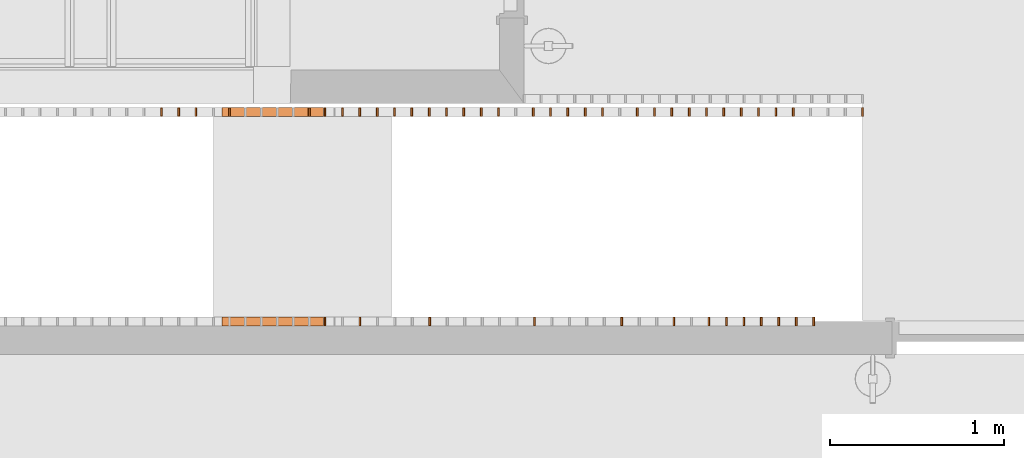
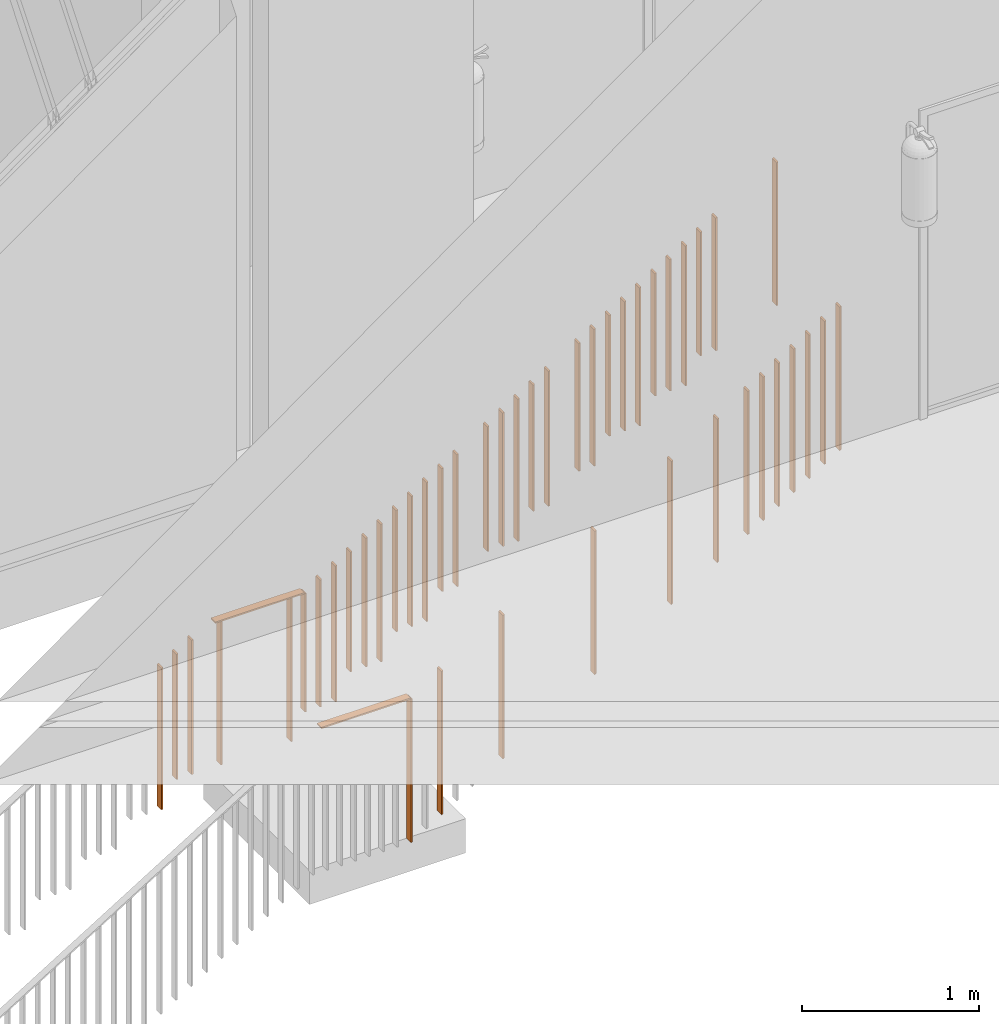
# One storey, part 96 of 100: 47 proxies, 2 elements without a shape of their own.
"""IFC2X3 building model written with IfcOpenShell, lengths in millimetres."""

from ifc_helpers import new_model, entity, si_unit, converted_unit, derived_unit, money_unit, direction, frame, origin_with_axes, place, context, subcontext, project, spatial, faceted_brep, material, type_object, element, aggregate, save


model = new_model("IFC2X3")

# Units and contexts
model_context = context("Model", 3, precision=0.01, world=origin_with_axes(), true_north=direction((0.0, 1.0)))
body_context = subcontext(model_context, "Body", "Model", "MODEL_VIEW")
ifc_project = project(units=[si_unit("LENGTHUNIT", "METRE", prefix="MILLI"), si_unit("AREAUNIT", "SQUARE_METRE"), si_unit("VOLUMEUNIT", "CUBIC_METRE"), converted_unit("PLANEANGLEUNIT", "DEGREE", entity("IfcPlaneAngleMeasure", 0.0174532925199), si_unit("PLANEANGLEUNIT", "RADIAN"), dimensions=[0, 0, 0, 0, 0, 0, 0]), si_unit("SOLIDANGLEUNIT", "STERADIAN"), money_unit("EUR"), converted_unit("TIMEUNIT", "Year", entity("IfcTimeMeasure", 31556926.0), si_unit("TIMEUNIT", "SECOND"), dimensions=[0, 0, 1, 0, 0, 0, 0]), si_unit("MASSUNIT", "GRAM", prefix="KILO"), si_unit("THERMODYNAMICTEMPERATUREUNIT", "DEGREE_CELSIUS"), si_unit("LUMINOUSINTENSITYUNIT", "LUMEN"), si_unit("ENERGYUNIT", "JOULE", prefix="MEGA"), derived_unit("THERMALCONDUCTANCEUNIT", [(si_unit("POWERUNIT", "WATT"), 1), (si_unit("LENGTHUNIT", "METRE"), -1), (si_unit("THERMODYNAMICTEMPERATUREUNIT", "KELVIN"), -1)]), derived_unit("SPECIFICHEATCAPACITYUNIT", [(si_unit("ENERGYUNIT", "JOULE"), 1), (si_unit("MASSUNIT", "GRAM", prefix="KILO"), -1), (si_unit("THERMODYNAMICTEMPERATUREUNIT", "KELVIN"), -1)]), derived_unit("MASSDENSITYUNIT", [(si_unit("MASSUNIT", "GRAM", prefix="KILO"), 1), (si_unit("VOLUMEUNIT", "CUBIC_METRE"), -1)])], contexts=[model_context])

# Site, building, storey
site_placement = place(None, origin_with_axes())
site = spatial("IfcSite", under=ifc_project, at=site_placement, Name="Politse- ja Piirivalveameti ning Päästeameti ühishoone", CompositionType="ELEMENT")
building_placement = place(site_placement, origin_with_axes())
building = spatial("IfcBuilding", under=site, at=building_placement, Name="Politse- ja Piirivalveameti ning Päästeameti ühishoone", CompositionType="ELEMENT")
storey_placement = place(building_placement, frame((0.0, 0.0, 3800.0), z_axis=(0.0, 0.0, 1.0), x_axis=(1.0, 0.0, 0.0)))
storey = spatial("IfcBuildingStorey", under=building, at=storey_placement, Name="Teine korrus", CompositionType="ELEMENT", Elevation=3800.0)

# Railing, proxies
railing_type = type_object("IfcRailingType", Name="Railing Type", PredefinedType="NOTDEFINED")
railing_1_placement = place(storey_placement, frame((18400.0260184, 11585.0198611, -3800.0), z_axis=(0.0, 0.0, 1.0), x_axis=(1.0, 0.0, 0.0)))
railing_1 = element("IfcRailing", 1, at=railing_1_placement, inside=storey, type_object=railing_type, Name="TREPIPIIRE 6", PredefinedType="NOTDEFINED")
ifc_material = material(Name="Teras - Konstruktsioon")
building_element_proxy_type = type_object("IfcBuildingElementProxyType", Name="IfcBuildingElementProxy", PredefinedType="NOTDEFINED")
proxy_1_placement = place(railing_1_placement, frame((3720.0, -25.0, 1900.0), z_axis=(0.0, 0.0, 1.0), x_axis=(1.0, 0.0, 0.0)))
proxy_1 = element("IfcBuildingElementProxy", 2, at=proxy_1_placement, type_object=building_element_proxy_type, material=ifc_material, Name="PIIRDE POST - 001", context=body_context, shape_type="Brep", body=[
    faceted_brep([(5.0, -25.0, 1.41814436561), (5.0, 25.0, 1.41814436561), (5.0, 25.0, 990.463297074), (5.0, -25.0, 990.463297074), (-5.0, -25.0, -1.41814436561), (-5.0, 25.0, -1.41814436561), (-5.0, 25.0, 990.463297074), (-5.0, -25.0, 990.463297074)], [[[0, 1, 2, 3]], [[0, 4, 5, 1]], [[1, 5, 6, 2]], [[3, 2, 6, 7]], [[4, 0, 3, 7]], [[5, 4, 7, 6]]]),
])
proxy_2_placement = place(railing_1_placement, frame((6520.0, -25.0, 3627.27272727), z_axis=(0.0, 0.0, 1.0), x_axis=(1.0, 0.0, 0.0)))
proxy_2 = element("IfcBuildingElementProxy", 3, at=proxy_2_placement, type_object=building_element_proxy_type, material=ifc_material, Name="PIIRDE POST - 001", context=body_context, shape_type="Brep", body=[
    faceted_brep([(5.0, -25.0, 3.08441558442), (5.0, 25.0, 3.08441558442), (5.0, 25.0, 993.084415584), (5.0, -25.0, 993.084415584), (-5.0, -25.0, -3.08441558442), (-5.0, 25.0, -3.08441558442), (-5.0, 25.0, 986.915584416), (-5.0, -25.0, 986.915584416)], [[[0, 1, 2, 3]], [[0, 4, 5, 1]], [[1, 5, 6, 2]], [[3, 2, 6, 7]], [[4, 0, 3, 7]], [[5, 4, 7, 6]]]),
])
proxy_3_placement = place(railing_1_placement, frame((3420.83432195, -25.0, 2873.07417596), z_axis=(0.0, 0.0, 1.0), x_axis=(1.0, 0.0, 0.0)))
proxy_3 = element("IfcBuildingElementProxy", 4, at=proxy_3_placement, type_object=building_element_proxy_type, material=ifc_material, Name="Piirde Ülaosa - 001", context=body_context, shape_type="Brep", body=[
    faceted_brep([(-290.834321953, 25.0, 16.9258240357), (-290.834321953, 25.0, 26.9258240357), (290.834321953, 25.0, 26.9258240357), (291.526349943, 25.0, 16.9258240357), (-290.834321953, -25.0, 26.9258240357), (-290.834321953, -25.0, 16.9258240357), (290.834321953, -25.0, 26.9258240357), (291.526349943, -25.0, 16.9258240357)], [[[0, 1, 2, 3]], [[4, 1, 0, 5]], [[1, 4, 6, 2]], [[7, 3, 2, 6]], [[5, 0, 3, 7]], [[4, 5, 7, 6]]]),
])
proxy_4_placement = place(railing_1_placement, frame((3920.0, -25.0, 2023.37661082), z_axis=(0.0, 0.0, 1.0), x_axis=(1.0, 0.0, 0.0)))
proxy_4 = element("IfcBuildingElementProxy", 5, at=proxy_4_placement, type_object=building_element_proxy_type, material=ifc_material, Name="BALUSTER - 001", context=body_context, shape_type="Brep", body=[
    faceted_brep([(5.0, -25.0, 3.08441558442), (5.0, 25.0, 3.08441558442), (5.0, 25.0, 993.084428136), (5.0, -25.0, 993.084428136), (-5.0, -25.0, -3.08441558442), (-5.0, 25.0, -3.08441558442), (-5.0, 25.0, 986.915596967), (-5.0, -25.0, 986.915596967)], [[[0, 1, 2, 3]], [[0, 4, 5, 1]], [[1, 5, 6, 2]], [[3, 2, 6, 7]], [[4, 0, 3, 7]], [[5, 4, 7, 6]]]),
])
proxy_5_placement = place(railing_1_placement, frame((4320.0, -25.0, 2270.12985758), z_axis=(0.0, 0.0, 1.0), x_axis=(1.0, 0.0, 0.0)))
proxy_5 = element("IfcBuildingElementProxy", 6, at=proxy_5_placement, type_object=building_element_proxy_type, material=ifc_material, Name="BALUSTER - 001", context=body_context, shape_type="Brep", body=[
    faceted_brep([(5.0, -25.0, 3.08441558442), (5.0, 25.0, 3.08441558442), (5.0, 25.0, 993.084428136), (5.0, -25.0, 993.084428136), (-5.0, -25.0, -3.08441558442), (-5.0, 25.0, -3.08441558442), (-5.0, 25.0, 986.915596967), (-5.0, -25.0, 986.915596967)], [[[0, 1, 2, 3]], [[0, 4, 5, 1]], [[1, 5, 6, 2]], [[3, 2, 6, 7]], [[4, 0, 3, 7]], [[5, 4, 7, 6]]]),
])
proxy_6_placement = place(railing_1_placement, frame((4920.0, -25.0, 2640.25972771), z_axis=(0.0, 0.0, 1.0), x_axis=(1.0, 0.0, 0.0)))
proxy_6 = element("IfcBuildingElementProxy", 7, at=proxy_6_placement, type_object=building_element_proxy_type, material=ifc_material, Name="BALUSTER - 001", context=body_context, shape_type="Brep", body=[
    faceted_brep([(5.0, -25.0, 3.08441558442), (5.0, 25.0, 3.08441558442), (5.0, 25.0, 993.084428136), (5.0, -25.0, 993.084428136), (-5.0, -25.0, -3.08441558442), (-5.0, 25.0, -3.08441558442), (-5.0, 25.0, 986.915596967), (-5.0, -25.0, 986.915596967)], [[[0, 1, 2, 3]], [[0, 4, 5, 1]], [[1, 5, 6, 2]], [[3, 2, 6, 7]], [[4, 0, 3, 7]], [[5, 4, 7, 6]]]),
])
proxy_7_placement = place(railing_1_placement, frame((5420.0, -25.0, 2948.70128615), z_axis=(0.0, 0.0, 1.0), x_axis=(1.0, 0.0, 0.0)))
proxy_7 = element("IfcBuildingElementProxy", 8, at=proxy_7_placement, type_object=building_element_proxy_type, material=ifc_material, Name="BALUSTER - 001", context=body_context, shape_type="Brep", body=[
    faceted_brep([(5.0, -25.0, 3.08441558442), (5.0, 25.0, 3.08441558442), (5.0, 25.0, 993.084428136), (5.0, -25.0, 993.084428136), (-5.0, -25.0, -3.08441558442), (-5.0, 25.0, -3.08441558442), (-5.0, 25.0, 986.915596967), (-5.0, -25.0, 986.915596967)], [[[0, 1, 2, 3]], [[0, 4, 5, 1]], [[1, 5, 6, 2]], [[3, 2, 6, 7]], [[4, 0, 3, 7]], [[5, 4, 7, 6]]]),
])
proxy_8_placement = place(railing_1_placement, frame((5720.0, -25.0, 3133.76622121), z_axis=(0.0, 0.0, 1.0), x_axis=(1.0, 0.0, 0.0)))
proxy_8 = element("IfcBuildingElementProxy", 9, at=proxy_8_placement, type_object=building_element_proxy_type, material=ifc_material, Name="BALUSTER - 001", context=body_context, shape_type="Brep", body=[
    faceted_brep([(5.0, -25.0, 3.08441558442), (5.0, 25.0, 3.08441558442), (5.0, 25.0, 993.084428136), (5.0, -25.0, 993.084428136), (-5.0, -25.0, -3.08441558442), (-5.0, 25.0, -3.08441558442), (-5.0, 25.0, 986.915596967), (-5.0, -25.0, 986.915596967)], [[[0, 1, 2, 3]], [[0, 4, 5, 1]], [[1, 5, 6, 2]], [[3, 2, 6, 7]], [[4, 0, 3, 7]], [[5, 4, 7, 6]]]),
])
proxy_9_placement = place(railing_1_placement, frame((5920.0, -25.0, 3257.14284459), z_axis=(0.0, 0.0, 1.0), x_axis=(1.0, 0.0, 0.0)))
proxy_9 = element("IfcBuildingElementProxy", 10, at=proxy_9_placement, type_object=building_element_proxy_type, material=ifc_material, Name="BALUSTER - 001", context=body_context, shape_type="Brep", body=[
    faceted_brep([(5.0, -25.0, 3.08441558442), (5.0, 25.0, 3.08441558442), (5.0, 25.0, 993.084428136), (5.0, -25.0, 993.084428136), (-5.0, -25.0, -3.08441558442), (-5.0, 25.0, -3.08441558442), (-5.0, 25.0, 986.915596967), (-5.0, -25.0, 986.915596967)], [[[0, 1, 2, 3]], [[0, 4, 5, 1]], [[1, 5, 6, 2]], [[3, 2, 6, 7]], [[4, 0, 3, 7]], [[5, 4, 7, 6]]]),
])
proxy_10_placement = place(railing_1_placement, frame((6020.0, -25.0, 3318.83115628), z_axis=(0.0, 0.0, 1.0), x_axis=(1.0, 0.0, 0.0)))
proxy_10 = element("IfcBuildingElementProxy", 11, at=proxy_10_placement, type_object=building_element_proxy_type, material=ifc_material, Name="BALUSTER - 001", context=body_context, shape_type="Brep", body=[
    faceted_brep([(5.0, -25.0, 3.08441558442), (5.0, 25.0, 3.08441558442), (5.0, 25.0, 993.084428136), (5.0, -25.0, 993.084428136), (-5.0, -25.0, -3.08441558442), (-5.0, 25.0, -3.08441558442), (-5.0, 25.0, 986.915596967), (-5.0, -25.0, 986.915596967)], [[[0, 1, 2, 3]], [[0, 4, 5, 1]], [[1, 5, 6, 2]], [[3, 2, 6, 7]], [[4, 0, 3, 7]], [[5, 4, 7, 6]]]),
])
proxy_11_placement = place(railing_1_placement, frame((6120.0, -25.0, 3380.51946797), z_axis=(0.0, 0.0, 1.0), x_axis=(1.0, 0.0, 0.0)))
proxy_11 = element("IfcBuildingElementProxy", 12, at=proxy_11_placement, type_object=building_element_proxy_type, material=ifc_material, Name="BALUSTER - 001", context=body_context, shape_type="Brep", body=[
    faceted_brep([(5.0, -25.0, 3.08441558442), (5.0, 25.0, 3.08441558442), (5.0, 25.0, 993.084428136), (5.0, -25.0, 993.084428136), (-5.0, -25.0, -3.08441558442), (-5.0, 25.0, -3.08441558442), (-5.0, 25.0, 986.915596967), (-5.0, -25.0, 986.915596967)], [[[0, 1, 2, 3]], [[0, 4, 5, 1]], [[1, 5, 6, 2]], [[3, 2, 6, 7]], [[4, 0, 3, 7]], [[5, 4, 7, 6]]]),
])
proxy_12_placement = place(railing_1_placement, frame((6220.0, -25.0, 3442.20777966), z_axis=(0.0, 0.0, 1.0), x_axis=(1.0, 0.0, 0.0)))
proxy_12 = element("IfcBuildingElementProxy", 13, at=proxy_12_placement, type_object=building_element_proxy_type, material=ifc_material, Name="BALUSTER - 001", context=body_context, shape_type="Brep", body=[
    faceted_brep([(5.0, -25.0, 3.08441558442), (5.0, 25.0, 3.08441558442), (5.0, 25.0, 993.084428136), (5.0, -25.0, 993.084428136), (-5.0, -25.0, -3.08441558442), (-5.0, 25.0, -3.08441558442), (-5.0, 25.0, 986.915596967), (-5.0, -25.0, 986.915596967)], [[[0, 1, 2, 3]], [[0, 4, 5, 1]], [[1, 5, 6, 2]], [[3, 2, 6, 7]], [[4, 0, 3, 7]], [[5, 4, 7, 6]]]),
])
proxy_13_placement = place(railing_1_placement, frame((6320.0, -25.0, 3503.89609134), z_axis=(0.0, 0.0, 1.0), x_axis=(1.0, 0.0, 0.0)))
proxy_13 = element("IfcBuildingElementProxy", 14, at=proxy_13_placement, type_object=building_element_proxy_type, material=ifc_material, Name="BALUSTER - 001", context=body_context, shape_type="Brep", body=[
    faceted_brep([(5.0, -25.0, 3.08441558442), (5.0, 25.0, 3.08441558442), (5.0, 25.0, 993.084428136), (5.0, -25.0, 993.084428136), (-5.0, -25.0, -3.08441558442), (-5.0, 25.0, -3.08441558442), (-5.0, 25.0, 986.915596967), (-5.0, -25.0, 986.915596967)], [[[0, 1, 2, 3]], [[0, 4, 5, 1]], [[1, 5, 6, 2]], [[3, 2, 6, 7]], [[4, 0, 3, 7]], [[5, 4, 7, 6]]]),
])
proxy_14_placement = place(railing_1_placement, frame((6420.0, -25.0, 3565.58440303), z_axis=(0.0, 0.0, 1.0), x_axis=(1.0, 0.0, 0.0)))
proxy_14 = element("IfcBuildingElementProxy", 15, at=proxy_14_placement, type_object=building_element_proxy_type, material=ifc_material, Name="BALUSTER - 001", context=body_context, shape_type="Brep", body=[
    faceted_brep([(5.0, -25.0, 3.08441558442), (5.0, 25.0, 3.08441558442), (5.0, 25.0, 993.084428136), (5.0, -25.0, 993.084428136), (-5.0, -25.0, -3.08441558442), (-5.0, 25.0, -3.08441558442), (-5.0, 25.0, 986.915596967), (-5.0, -25.0, 986.915596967)], [[[0, 1, 2, 3]], [[0, 4, 5, 1]], [[1, 5, 6, 2]], [[3, 2, 6, 7]], [[4, 0, 3, 7]], [[5, 4, 7, 6]]]),
])
aggregate(railing_1, [proxy_1, proxy_2, proxy_3, proxy_4, proxy_5, proxy_6, proxy_7, proxy_8, proxy_9, proxy_10, proxy_11, proxy_12, proxy_13, proxy_14])

railing_2_placement = place(storey_placement, frame((18400.0260184, 12785.0198611, -3800.0), z_axis=(0.0, 0.0, 1.0), x_axis=(1.0, 0.0, 0.0)))
railing_2 = element("IfcRailing", 16, at=railing_2_placement, inside=storey, type_object=railing_type, Name="TREPIPIIRE 7", PredefinedType="NOTDEFINED")
proxy_15_placement = place(railing_2_placement, frame((3720.0, -25.0, 2072.72727273), z_axis=(0.0, 0.0, 1.0), x_axis=(1.0, 0.0, 0.0)))
proxy_15 = element("IfcBuildingElementProxy", 17, at=proxy_15_placement, type_object=building_element_proxy_type, material=ifc_material, Name="PIIRDE POST - 001", context=body_context, shape_type="Brep", body=[
    faceted_brep([(5.0, -25.0, 0.0), (5.0, 25.0, 0.0), (5.0, 25.0, 817.736024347), (5.0, -25.0, 817.736024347), (-5.0, -25.0, 0.0), (-5.0, 25.0, 0.0), (-5.0, 25.0, 817.736024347), (-5.0, -25.0, 817.736024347)], [[[0, 1, 2, 3]], [[0, 4, 5, 1]], [[1, 5, 6, 2]], [[3, 2, 6, 7]], [[4, 0, 3, 7]], [[5, 4, 7, 6]]]),
])
proxy_16_placement = place(railing_2_placement, frame((6800.0, -25.0, 3800.0), z_axis=(0.0, 0.0, 1.0), x_axis=(1.0, 0.0, 0.0)))
proxy_16 = element("IfcBuildingElementProxy", 18, at=proxy_16_placement, type_object=building_element_proxy_type, material=ifc_material, Name="PIIRDE POST - 001", context=body_context, shape_type="Brep", body=[
    faceted_brep([(5.0, -25.0, 0.0), (5.0, 25.0, 0.0), (5.0, 25.0, 993.084415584), (5.0, -25.0, 993.084415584), (-5.0, -25.0, 0.0), (-5.0, 25.0, 0.0), (-5.0, 25.0, 986.915584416), (-5.0, -25.0, 986.915584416)], [[[0, 1, 2, 3]], [[0, 4, 5, 1]], [[1, 5, 6, 2]], [[3, 2, 6, 7]], [[4, 0, 3, 7]], [[5, 4, 7, 6]]]),
])
proxy_17_placement = place(railing_2_placement, frame((2781.93548387, -25.0, 1727.27271472), z_axis=(0.0, 0.0, 1.0), x_axis=(1.0, 0.0, 0.0)))
proxy_17 = element("IfcBuildingElementProxy", 19, at=proxy_17_placement, type_object=building_element_proxy_type, material=ifc_material, Name="BALUSTER - 001", context=body_context, shape_type="Brep", body=[
    faceted_brep([(5.0, -25.0, 0.0), (5.0, 25.0, 0.0), (5.0, 25.0, 981.940733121), (5.0, -25.0, 981.940733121), (-5.0, -25.0, 0.0), (-5.0, 25.0, 0.0), (-5.0, 25.0, 975.771901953), (-5.0, -25.0, 975.771901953)], [[[0, 1, 2, 3]], [[0, 4, 5, 1]], [[1, 5, 6, 2]], [[3, 2, 6, 7]], [[4, 0, 3, 7]], [[5, 4, 7, 6]]]),
])
proxy_18_placement = place(railing_2_placement, frame((2881.29032258, -25.0, 1899.99998745), z_axis=(0.0, 0.0, 1.0), x_axis=(1.0, 0.0, 0.0)))
proxy_18 = element("IfcBuildingElementProxy", 20, at=proxy_18_placement, type_object=building_element_proxy_type, material=ifc_material, Name="BALUSTER - 001", context=body_context, shape_type="Brep", body=[
    faceted_brep([(5.0, -25.0, 0.0), (5.0, 25.0, 0.0), (5.0, 25.0, 870.503782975), (5.0, -25.0, 870.503782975), (-5.0, -25.0, 0.0), (-5.0, 25.0, 0.0), (-5.0, 25.0, 864.334951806), (-5.0, -25.0, 864.334951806)], [[[0, 1, 2, 3]], [[0, 4, 5, 1]], [[1, 5, 6, 2]], [[3, 2, 6, 7]], [[4, 0, 3, 7]], [[5, 4, 7, 6]]]),
])
proxy_19_placement = place(railing_2_placement, frame((2980.64516129, -25.0, 1899.99998745), z_axis=(0.0, 0.0, 1.0), x_axis=(1.0, 0.0, 0.0)))
proxy_19 = element("IfcBuildingElementProxy", 21, at=proxy_19_placement, type_object=building_element_proxy_type, material=ifc_material, Name="BALUSTER - 001", context=body_context, shape_type="Brep", body=[
    faceted_brep([(5.0, -25.0, 0.0), (5.0, 25.0, 0.0), (5.0, 25.0, 931.794105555), (5.0, -25.0, 931.794105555), (-5.0, -25.0, 0.0), (-5.0, 25.0, 0.0), (-5.0, 25.0, 925.625274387), (-5.0, -25.0, 925.625274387)], [[[0, 1, 2, 3]], [[0, 4, 5, 1]], [[1, 5, 6, 2]], [[3, 2, 6, 7]], [[4, 0, 3, 7]], [[5, 4, 7, 6]]]),
])
proxy_20_placement = place(railing_2_placement, frame((3420.83432195, -25.0, 2873.07417596), z_axis=(0.0, 0.0, 1.0), x_axis=(1.0, 0.0, 0.0)))
proxy_20 = element("IfcBuildingElementProxy", 22, at=proxy_20_placement, type_object=building_element_proxy_type, material=ifc_material, Name="Piirde Ülaosa - 001", context=body_context, shape_type="Brep", body=[
    faceted_brep([(-290.834321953, 25.0, 16.9258240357), (-290.834321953, 25.0, 26.9258240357), (290.834321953, 25.0, 26.9258240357), (291.526349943, 25.0, 16.9258240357), (-290.834321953, -25.0, 26.9258240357), (-290.834321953, -25.0, 16.9258240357), (290.834321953, -25.0, 26.9258240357), (291.526349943, -25.0, 16.9258240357)], [[[0, 1, 2, 3]], [[4, 1, 0, 5]], [[1, 4, 6, 2]], [[7, 3, 2, 6]], [[5, 0, 3, 7]], [[4, 5, 7, 6]]]),
])
proxy_21_placement = place(railing_2_placement, frame((3171.42857143, -25.0, 1899.99998745), z_axis=(0.0, 0.0, 1.0), x_axis=(1.0, 0.0, 0.0)))
proxy_21 = element("IfcBuildingElementProxy", 23, at=proxy_21_placement, type_object=building_element_proxy_type, material=ifc_material, Name="BALUSTER - 001", context=body_context, shape_type="Brep", body=[
    faceted_brep([(5.0, -25.0, 0.0), (5.0, 25.0, 0.0), (5.0, 25.0, 990.000012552), (5.0, -25.0, 990.000012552), (-5.0, -25.0, 0.0), (-5.0, 25.0, 0.0), (-5.0, 25.0, 990.000012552), (-5.0, -25.0, 990.000012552)], [[[0, 1, 2, 3]], [[0, 4, 5, 1]], [[1, 5, 6, 2]], [[3, 2, 6, 7]], [[4, 0, 3, 7]], [[5, 4, 7, 6]]]),
])
proxy_22_placement = place(railing_2_placement, frame((3628.57142857, -25.0, 1899.99998745), z_axis=(0.0, 0.0, 1.0), x_axis=(1.0, 0.0, 0.0)))
proxy_22 = element("IfcBuildingElementProxy", 24, at=proxy_22_placement, type_object=building_element_proxy_type, material=ifc_material, Name="BALUSTER - 001", context=body_context, shape_type="Brep", body=[
    faceted_brep([(5.0, -25.0, 0.0), (5.0, 25.0, 0.0), (5.0, 25.0, 990.000012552), (5.0, -25.0, 990.000012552), (-5.0, -25.0, 0.0), (-5.0, 25.0, 0.0), (-5.0, 25.0, 990.000012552), (-5.0, -25.0, 990.000012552)], [[[0, 1, 2, 3]], [[0, 4, 5, 1]], [[1, 5, 6, 2]], [[3, 2, 6, 7]], [[4, 0, 3, 7]], [[5, 4, 7, 6]]]),
])
proxy_23_placement = place(railing_2_placement, frame((3819.35483871, -25.0, 2072.72726018), z_axis=(0.0, 0.0, 1.0), x_axis=(1.0, 0.0, 0.0)))
proxy_23 = element("IfcBuildingElementProxy", 25, at=proxy_23_placement, type_object=building_element_proxy_type, material=ifc_material, Name="BALUSTER - 001", context=body_context, shape_type="Brep", body=[
    faceted_brep([(5.0, -25.0, 0.0), (5.0, 25.0, 0.0), (5.0, 25.0, 881.647477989), (5.0, -25.0, 881.647477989), (-5.0, -25.0, 0.0), (-5.0, 25.0, 0.0), (-5.0, 25.0, 875.478646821), (-5.0, -25.0, 875.478646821)], [[[0, 1, 2, 3]], [[0, 4, 5, 1]], [[1, 5, 6, 2]], [[3, 2, 6, 7]], [[4, 0, 3, 7]], [[5, 4, 7, 6]]]),
])
proxy_24_placement = place(railing_2_placement, frame((3918.70967742, -25.0, 2072.72726018), z_axis=(0.0, 0.0, 1.0), x_axis=(1.0, 0.0, 0.0)))
proxy_24 = element("IfcBuildingElementProxy", 26, at=proxy_24_placement, type_object=building_element_proxy_type, material=ifc_material, Name="BALUSTER - 001", context=body_context, shape_type="Brep", body=[
    faceted_brep([(5.0, -25.0, 0.0), (5.0, 25.0, 0.0), (5.0, 25.0, 942.93780057), (5.0, -25.0, 942.93780057), (-5.0, -25.0, 0.0), (-5.0, 25.0, 0.0), (-5.0, 25.0, 936.768969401), (-5.0, -25.0, 936.768969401)], [[[0, 1, 2, 3]], [[0, 4, 5, 1]], [[1, 5, 6, 2]], [[3, 2, 6, 7]], [[4, 0, 3, 7]], [[5, 4, 7, 6]]]),
])
proxy_25_placement = place(railing_2_placement, frame((4018.06451613, -25.0, 2245.4545329), z_axis=(0.0, 0.0, 1.0), x_axis=(1.0, 0.0, 0.0)))
proxy_25 = element("IfcBuildingElementProxy", 27, at=proxy_25_placement, type_object=building_element_proxy_type, material=ifc_material, Name="BALUSTER - 001", context=body_context, shape_type="Brep", body=[
    faceted_brep([(5.0, -25.0, 0.0), (5.0, 25.0, 0.0), (5.0, 25.0, 831.500850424), (5.0, -25.0, 831.500850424), (-5.0, -25.0, 0.0), (-5.0, 25.0, 0.0), (-5.0, 25.0, 825.332019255), (-5.0, -25.0, 825.332019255)], [[[0, 1, 2, 3]], [[0, 4, 5, 1]], [[1, 5, 6, 2]], [[3, 2, 6, 7]], [[4, 0, 3, 7]], [[5, 4, 7, 6]]]),
])
proxy_26_placement = place(railing_2_placement, frame((4117.41935484, -25.0, 2245.4545329), z_axis=(0.0, 0.0, 1.0), x_axis=(1.0, 0.0, 0.0)))
proxy_26 = element("IfcBuildingElementProxy", 28, at=proxy_26_placement, type_object=building_element_proxy_type, material=ifc_material, Name="BALUSTER - 001", context=body_context, shape_type="Brep", body=[
    faceted_brep([(5.0, -25.0, 0.0), (5.0, 25.0, 0.0), (5.0, 25.0, 892.791173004), (5.0, -25.0, 892.791173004), (-5.0, -25.0, 0.0), (-5.0, 25.0, 0.0), (-5.0, 25.0, 886.622341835), (-5.0, -25.0, 886.622341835)], [[[0, 1, 2, 3]], [[0, 4, 5, 1]], [[1, 5, 6, 2]], [[3, 2, 6, 7]], [[4, 0, 3, 7]], [[5, 4, 7, 6]]]),
])
proxy_27_placement = place(railing_2_placement, frame((4216.77419355, -25.0, 2245.4545329), z_axis=(0.0, 0.0, 1.0), x_axis=(1.0, 0.0, 0.0)))
proxy_27 = element("IfcBuildingElementProxy", 29, at=proxy_27_placement, type_object=building_element_proxy_type, material=ifc_material, Name="BALUSTER - 001", context=body_context, shape_type="Brep", body=[
    faceted_brep([(5.0, -25.0, 0.0), (5.0, 25.0, 0.0), (5.0, 25.0, 954.081495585), (5.0, -25.0, 954.081495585), (-5.0, -25.0, 0.0), (-5.0, 25.0, 0.0), (-5.0, 25.0, 947.912664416), (-5.0, -25.0, 947.912664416)], [[[0, 1, 2, 3]], [[0, 4, 5, 1]], [[1, 5, 6, 2]], [[3, 2, 6, 7]], [[4, 0, 3, 7]], [[5, 4, 7, 6]]]),
])
proxy_28_placement = place(railing_2_placement, frame((4316.12903226, -25.0, 2418.18180563), z_axis=(0.0, 0.0, 1.0), x_axis=(1.0, 0.0, 0.0)))
proxy_28 = element("IfcBuildingElementProxy", 30, at=proxy_28_placement, type_object=building_element_proxy_type, material=ifc_material, Name="BALUSTER - 001", context=body_context, shape_type="Brep", body=[
    faceted_brep([(5.0, -25.0, 0.0), (5.0, 25.0, 0.0), (5.0, 25.0, 842.644545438), (5.0, -25.0, 842.644545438), (-5.0, -25.0, 0.0), (-5.0, 25.0, 0.0), (-5.0, 25.0, 836.475714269), (-5.0, -25.0, 836.475714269)], [[[0, 1, 2, 3]], [[0, 4, 5, 1]], [[1, 5, 6, 2]], [[3, 2, 6, 7]], [[4, 0, 3, 7]], [[5, 4, 7, 6]]]),
])
proxy_29_placement = place(railing_2_placement, frame((4415.48387097, -25.0, 2418.18180563), z_axis=(0.0, 0.0, 1.0), x_axis=(1.0, 0.0, 0.0)))
proxy_29 = element("IfcBuildingElementProxy", 31, at=proxy_29_placement, type_object=building_element_proxy_type, material=ifc_material, Name="BALUSTER - 001", context=body_context, shape_type="Brep", body=[
    faceted_brep([(5.0, -25.0, 0.0), (5.0, 25.0, 0.0), (5.0, 25.0, 903.934868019), (5.0, -25.0, 903.934868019), (-5.0, -25.0, 0.0), (-5.0, 25.0, 0.0), (-5.0, 25.0, 897.76603685), (-5.0, -25.0, 897.76603685)], [[[0, 1, 2, 3]], [[0, 4, 5, 1]], [[1, 5, 6, 2]], [[3, 2, 6, 7]], [[4, 0, 3, 7]], [[5, 4, 7, 6]]]),
])
proxy_30_placement = place(railing_2_placement, frame((4514.83870968, -25.0, 2418.18180563), z_axis=(0.0, 0.0, 1.0), x_axis=(1.0, 0.0, 0.0)))
proxy_30 = element("IfcBuildingElementProxy", 32, at=proxy_30_placement, type_object=building_element_proxy_type, material=ifc_material, Name="BALUSTER - 001", context=body_context, shape_type="Brep", body=[
    faceted_brep([(5.0, -25.0, 0.0), (5.0, 25.0, 0.0), (5.0, 25.0, 965.225190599), (5.0, -25.0, 965.225190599), (-5.0, -25.0, 0.0), (-5.0, 25.0, 0.0), (-5.0, 25.0, 959.056359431), (-5.0, -25.0, 959.056359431)], [[[0, 1, 2, 3]], [[0, 4, 5, 1]], [[1, 5, 6, 2]], [[3, 2, 6, 7]], [[4, 0, 3, 7]], [[5, 4, 7, 6]]]),
])
proxy_31_placement = place(railing_2_placement, frame((4614.19354839, -25.0, 2590.90907836), z_axis=(0.0, 0.0, 1.0), x_axis=(1.0, 0.0, 0.0)))
proxy_31 = element("IfcBuildingElementProxy", 33, at=proxy_31_placement, type_object=building_element_proxy_type, material=ifc_material, Name="BALUSTER - 001", context=body_context, shape_type="Brep", body=[
    faceted_brep([(5.0, -25.0, 0.0), (5.0, 25.0, 0.0), (5.0, 25.0, 853.788240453), (5.0, -25.0, 853.788240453), (-5.0, -25.0, 0.0), (-5.0, 25.0, 0.0), (-5.0, 25.0, 847.619409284), (-5.0, -25.0, 847.619409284)], [[[0, 1, 2, 3]], [[0, 4, 5, 1]], [[1, 5, 6, 2]], [[3, 2, 6, 7]], [[4, 0, 3, 7]], [[5, 4, 7, 6]]]),
])
proxy_32_placement = place(railing_2_placement, frame((4713.5483871, -25.0, 2590.90907836), z_axis=(0.0, 0.0, 1.0), x_axis=(1.0, 0.0, 0.0)))
proxy_32 = element("IfcBuildingElementProxy", 34, at=proxy_32_placement, type_object=building_element_proxy_type, material=ifc_material, Name="BALUSTER - 001", context=body_context, shape_type="Brep", body=[
    faceted_brep([(5.0, -25.0, 0.0), (5.0, 25.0, 0.0), (5.0, 25.0, 915.078563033), (5.0, -25.0, 915.078563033), (-5.0, -25.0, 0.0), (-5.0, 25.0, 0.0), (-5.0, 25.0, 908.909731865), (-5.0, -25.0, 908.909731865)], [[[0, 1, 2, 3]], [[0, 4, 5, 1]], [[1, 5, 6, 2]], [[3, 2, 6, 7]], [[4, 0, 3, 7]], [[5, 4, 7, 6]]]),
])
proxy_33_placement = place(railing_2_placement, frame((4912.25806452, -25.0, 2763.63635108), z_axis=(0.0, 0.0, 1.0), x_axis=(1.0, 0.0, 0.0)))
proxy_33 = element("IfcBuildingElementProxy", 35, at=proxy_33_placement, type_object=building_element_proxy_type, material=ifc_material, Name="BALUSTER - 001", context=body_context, shape_type="Brep", body=[
    faceted_brep([(5.0, -25.0, 0.0), (5.0, 25.0, 0.0), (5.0, 25.0, 864.931935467), (5.0, -25.0, 864.931935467), (-5.0, -25.0, 0.0), (-5.0, 25.0, 0.0), (-5.0, 25.0, 858.763104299), (-5.0, -25.0, 858.763104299)], [[[0, 1, 2, 3]], [[0, 4, 5, 1]], [[1, 5, 6, 2]], [[3, 2, 6, 7]], [[4, 0, 3, 7]], [[5, 4, 7, 6]]]),
])
proxy_34_placement = place(railing_2_placement, frame((5011.61290323, -25.0, 2763.63635108), z_axis=(0.0, 0.0, 1.0), x_axis=(1.0, 0.0, 0.0)))
proxy_34 = element("IfcBuildingElementProxy", 36, at=proxy_34_placement, type_object=building_element_proxy_type, material=ifc_material, Name="BALUSTER - 001", context=body_context, shape_type="Brep", body=[
    faceted_brep([(5.0, -25.0, 0.0), (5.0, 25.0, 0.0), (5.0, 25.0, 926.222258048), (5.0, -25.0, 926.222258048), (-5.0, -25.0, 0.0), (-5.0, 25.0, 0.0), (-5.0, 25.0, 920.053426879), (-5.0, -25.0, 920.053426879)], [[[0, 1, 2, 3]], [[0, 4, 5, 1]], [[1, 5, 6, 2]], [[3, 2, 6, 7]], [[4, 0, 3, 7]], [[5, 4, 7, 6]]]),
])
proxy_35_placement = place(railing_2_placement, frame((5110.96774194, -25.0, 2763.63635108), z_axis=(0.0, 0.0, 1.0), x_axis=(1.0, 0.0, 0.0)))
proxy_35 = element("IfcBuildingElementProxy", 37, at=proxy_35_placement, type_object=building_element_proxy_type, material=ifc_material, Name="BALUSTER - 001", context=body_context, shape_type="Brep", body=[
    faceted_brep([(5.0, -25.0, 0.0), (5.0, 25.0, 0.0), (5.0, 25.0, 987.512580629), (5.0, -25.0, 987.512580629), (-5.0, -25.0, 0.0), (-5.0, 25.0, 0.0), (-5.0, 25.0, 981.34374946), (-5.0, -25.0, 981.34374946)], [[[0, 1, 2, 3]], [[0, 4, 5, 1]], [[1, 5, 6, 2]], [[3, 2, 6, 7]], [[4, 0, 3, 7]], [[5, 4, 7, 6]]]),
])
proxy_36_placement = place(railing_2_placement, frame((5210.32258065, -25.0, 2936.36362381), z_axis=(0.0, 0.0, 1.0), x_axis=(1.0, 0.0, 0.0)))
proxy_36 = element("IfcBuildingElementProxy", 38, at=proxy_36_placement, type_object=building_element_proxy_type, material=ifc_material, Name="BALUSTER - 001", context=body_context, shape_type="Brep", body=[
    faceted_brep([(5.0, -25.0, 0.0), (5.0, 25.0, 0.0), (5.0, 25.0, 876.075630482), (5.0, -25.0, 876.075630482), (-5.0, -25.0, 0.0), (-5.0, 25.0, 0.0), (-5.0, 25.0, 869.906799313), (-5.0, -25.0, 869.906799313)], [[[0, 1, 2, 3]], [[0, 4, 5, 1]], [[1, 5, 6, 2]], [[3, 2, 6, 7]], [[4, 0, 3, 7]], [[5, 4, 7, 6]]]),
])
proxy_37_placement = place(railing_2_placement, frame((5309.67741935, -25.0, 2936.36362381), z_axis=(0.0, 0.0, 1.0), x_axis=(1.0, 0.0, 0.0)))
proxy_37 = element("IfcBuildingElementProxy", 39, at=proxy_37_placement, type_object=building_element_proxy_type, material=ifc_material, Name="BALUSTER - 001", context=body_context, shape_type="Brep", body=[
    faceted_brep([(5.0, -25.0, 0.0), (5.0, 25.0, 0.0), (5.0, 25.0, 937.365953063), (5.0, -25.0, 937.365953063), (-5.0, -25.0, 0.0), (-5.0, 25.0, 0.0), (-5.0, 25.0, 931.197121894), (-5.0, -25.0, 931.197121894)], [[[0, 1, 2, 3]], [[0, 4, 5, 1]], [[1, 5, 6, 2]], [[3, 2, 6, 7]], [[4, 0, 3, 7]], [[5, 4, 7, 6]]]),
])
proxy_38_placement = place(railing_2_placement, frame((5508.38709677, -25.0, 3109.09089654), z_axis=(0.0, 0.0, 1.0), x_axis=(1.0, 0.0, 0.0)))
proxy_38 = element("IfcBuildingElementProxy", 40, at=proxy_38_placement, type_object=building_element_proxy_type, material=ifc_material, Name="BALUSTER - 001", context=body_context, shape_type="Brep", body=[
    faceted_brep([(5.0, -25.0, 0.0), (5.0, 25.0, 0.0), (5.0, 25.0, 887.219325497), (5.0, -25.0, 887.219325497), (-5.0, -25.0, 0.0), (-5.0, 25.0, 0.0), (-5.0, 25.0, 881.050494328), (-5.0, -25.0, 881.050494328)], [[[0, 1, 2, 3]], [[0, 4, 5, 1]], [[1, 5, 6, 2]], [[3, 2, 6, 7]], [[4, 0, 3, 7]], [[5, 4, 7, 6]]]),
])
proxy_39_placement = place(railing_2_placement, frame((5607.74193548, -25.0, 3109.09089654), z_axis=(0.0, 0.0, 1.0), x_axis=(1.0, 0.0, 0.0)))
proxy_39 = element("IfcBuildingElementProxy", 41, at=proxy_39_placement, type_object=building_element_proxy_type, material=ifc_material, Name="BALUSTER - 001", context=body_context, shape_type="Brep", body=[
    faceted_brep([(5.0, -25.0, 0.0), (5.0, 25.0, 0.0), (5.0, 25.0, 948.509648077), (5.0, -25.0, 948.509648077), (-5.0, -25.0, 0.0), (-5.0, 25.0, 0.0), (-5.0, 25.0, 942.340816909), (-5.0, -25.0, 942.340816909)], [[[0, 1, 2, 3]], [[0, 4, 5, 1]], [[1, 5, 6, 2]], [[3, 2, 6, 7]], [[4, 0, 3, 7]], [[5, 4, 7, 6]]]),
])
proxy_40_placement = place(railing_2_placement, frame((5707.09677419, -25.0, 3281.81816927), z_axis=(0.0, 0.0, 1.0), x_axis=(1.0, 0.0, 0.0)))
proxy_40 = element("IfcBuildingElementProxy", 42, at=proxy_40_placement, type_object=building_element_proxy_type, material=ifc_material, Name="BALUSTER - 001", context=body_context, shape_type="Brep", body=[
    faceted_brep([(5.0, -25.0, 0.0), (5.0, 25.0, 0.0), (5.0, 25.0, 837.072697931), (5.0, -25.0, 837.072697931), (-5.0, -25.0, 0.0), (-5.0, 25.0, 0.0), (-5.0, 25.0, 830.903866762), (-5.0, -25.0, 830.903866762)], [[[0, 1, 2, 3]], [[0, 4, 5, 1]], [[1, 5, 6, 2]], [[3, 2, 6, 7]], [[4, 0, 3, 7]], [[5, 4, 7, 6]]]),
])
proxy_41_placement = place(railing_2_placement, frame((5806.4516129, -25.0, 3281.81816927), z_axis=(0.0, 0.0, 1.0), x_axis=(1.0, 0.0, 0.0)))
proxy_41 = element("IfcBuildingElementProxy", 43, at=proxy_41_placement, type_object=building_element_proxy_type, material=ifc_material, Name="BALUSTER - 001", context=body_context, shape_type="Brep", body=[
    faceted_brep([(5.0, -25.0, 0.0), (5.0, 25.0, 0.0), (5.0, 25.0, 898.363020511), (5.0, -25.0, 898.363020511), (-5.0, -25.0, 0.0), (-5.0, 25.0, 0.0), (-5.0, 25.0, 892.194189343), (-5.0, -25.0, 892.194189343)], [[[0, 1, 2, 3]], [[0, 4, 5, 1]], [[1, 5, 6, 2]], [[3, 2, 6, 7]], [[4, 0, 3, 7]], [[5, 4, 7, 6]]]),
])
proxy_42_placement = place(railing_2_placement, frame((5905.80645161, -25.0, 3281.81816927), z_axis=(0.0, 0.0, 1.0), x_axis=(1.0, 0.0, 0.0)))
proxy_42 = element("IfcBuildingElementProxy", 44, at=proxy_42_placement, type_object=building_element_proxy_type, material=ifc_material, Name="BALUSTER - 001", context=body_context, shape_type="Brep", body=[
    faceted_brep([(5.0, -25.0, 0.0), (5.0, 25.0, 0.0), (5.0, 25.0, 959.653343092), (5.0, -25.0, 959.653343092), (-5.0, -25.0, 0.0), (-5.0, 25.0, 0.0), (-5.0, 25.0, 953.484511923), (-5.0, -25.0, 953.484511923)], [[[0, 1, 2, 3]], [[0, 4, 5, 1]], [[1, 5, 6, 2]], [[3, 2, 6, 7]], [[4, 0, 3, 7]], [[5, 4, 7, 6]]]),
])
proxy_43_placement = place(railing_2_placement, frame((6005.16129032, -25.0, 3454.54544199), z_axis=(0.0, 0.0, 1.0), x_axis=(1.0, 0.0, 0.0)))
proxy_43 = element("IfcBuildingElementProxy", 45, at=proxy_43_placement, type_object=building_element_proxy_type, material=ifc_material, Name="BALUSTER - 001", context=body_context, shape_type="Brep", body=[
    faceted_brep([(5.0, -25.0, 0.0), (5.0, 25.0, 0.0), (5.0, 25.0, 848.216392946), (5.0, -25.0, 848.216392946), (-5.0, -25.0, 0.0), (-5.0, 25.0, 0.0), (-5.0, 25.0, 842.047561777), (-5.0, -25.0, 842.047561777)], [[[0, 1, 2, 3]], [[0, 4, 5, 1]], [[1, 5, 6, 2]], [[3, 2, 6, 7]], [[4, 0, 3, 7]], [[5, 4, 7, 6]]]),
])
proxy_44_placement = place(railing_2_placement, frame((6104.51612903, -25.0, 3454.54544199), z_axis=(0.0, 0.0, 1.0), x_axis=(1.0, 0.0, 0.0)))
proxy_44 = element("IfcBuildingElementProxy", 46, at=proxy_44_placement, type_object=building_element_proxy_type, material=ifc_material, Name="BALUSTER - 001", context=body_context, shape_type="Brep", body=[
    faceted_brep([(5.0, -25.0, 0.0), (5.0, 25.0, 0.0), (5.0, 25.0, 909.506715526), (5.0, -25.0, 909.506715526), (-5.0, -25.0, 0.0), (-5.0, 25.0, 0.0), (-5.0, 25.0, 903.337884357), (-5.0, -25.0, 903.337884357)], [[[0, 1, 2, 3]], [[0, 4, 5, 1]], [[1, 5, 6, 2]], [[3, 2, 6, 7]], [[4, 0, 3, 7]], [[5, 4, 7, 6]]]),
])
proxy_45_placement = place(railing_2_placement, frame((6203.87096774, -25.0, 3454.54544199), z_axis=(0.0, 0.0, 1.0), x_axis=(1.0, 0.0, 0.0)))
proxy_45 = element("IfcBuildingElementProxy", 47, at=proxy_45_placement, type_object=building_element_proxy_type, material=ifc_material, Name="BALUSTER - 001", context=body_context, shape_type="Brep", body=[
    faceted_brep([(5.0, -25.0, 0.0), (5.0, 25.0, 0.0), (5.0, 25.0, 970.797038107), (5.0, -25.0, 970.797038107), (-5.0, -25.0, 0.0), (-5.0, 25.0, 0.0), (-5.0, 25.0, 964.628206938), (-5.0, -25.0, 964.628206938)], [[[0, 1, 2, 3]], [[0, 4, 5, 1]], [[1, 5, 6, 2]], [[3, 2, 6, 7]], [[4, 0, 3, 7]], [[5, 4, 7, 6]]]),
])
proxy_46_placement = place(railing_2_placement, frame((6303.22580645, -25.0, 3627.27271472), z_axis=(0.0, 0.0, 1.0), x_axis=(1.0, 0.0, 0.0)))
proxy_46 = element("IfcBuildingElementProxy", 48, at=proxy_46_placement, type_object=building_element_proxy_type, material=ifc_material, Name="BALUSTER - 001", context=body_context, shape_type="Brep", body=[
    faceted_brep([(5.0, -25.0, 0.0), (5.0, 25.0, 0.0), (5.0, 25.0, 859.36008796), (5.0, -25.0, 859.36008796), (-5.0, -25.0, 0.0), (-5.0, 25.0, 0.0), (-5.0, 25.0, 853.191256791), (-5.0, -25.0, 853.191256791)], [[[0, 1, 2, 3]], [[0, 4, 5, 1]], [[1, 5, 6, 2]], [[3, 2, 6, 7]], [[4, 0, 3, 7]], [[5, 4, 7, 6]]]),
])
proxy_47_placement = place(railing_2_placement, frame((6402.58064516, -25.0, 3627.27271472), z_axis=(0.0, 0.0, 1.0), x_axis=(1.0, 0.0, 0.0)))
proxy_47 = element("IfcBuildingElementProxy", 49, at=proxy_47_placement, type_object=building_element_proxy_type, material=ifc_material, Name="BALUSTER - 001", context=body_context, shape_type="Brep", body=[
    faceted_brep([(5.0, -25.0, 0.0), (5.0, 25.0, 0.0), (5.0, 25.0, 920.650410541), (5.0, -25.0, 920.650410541), (-5.0, -25.0, 0.0), (-5.0, 25.0, 0.0), (-5.0, 25.0, 914.481579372), (-5.0, -25.0, 914.481579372)], [[[0, 1, 2, 3]], [[0, 4, 5, 1]], [[1, 5, 6, 2]], [[3, 2, 6, 7]], [[4, 0, 3, 7]], [[5, 4, 7, 6]]]),
])
aggregate(railing_2, [proxy_15, proxy_16, proxy_17, proxy_18, proxy_19, proxy_20, proxy_21, proxy_22, proxy_23, proxy_24, proxy_25, proxy_26, proxy_27, proxy_28, proxy_29, proxy_30, proxy_31, proxy_32, proxy_33, proxy_34, proxy_35, proxy_36, proxy_37, proxy_38, proxy_39, proxy_40, proxy_41, proxy_42, proxy_43, proxy_44, proxy_45, proxy_46, proxy_47])

save(model, "model.ifc")
